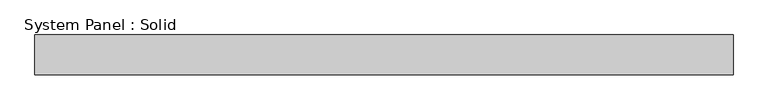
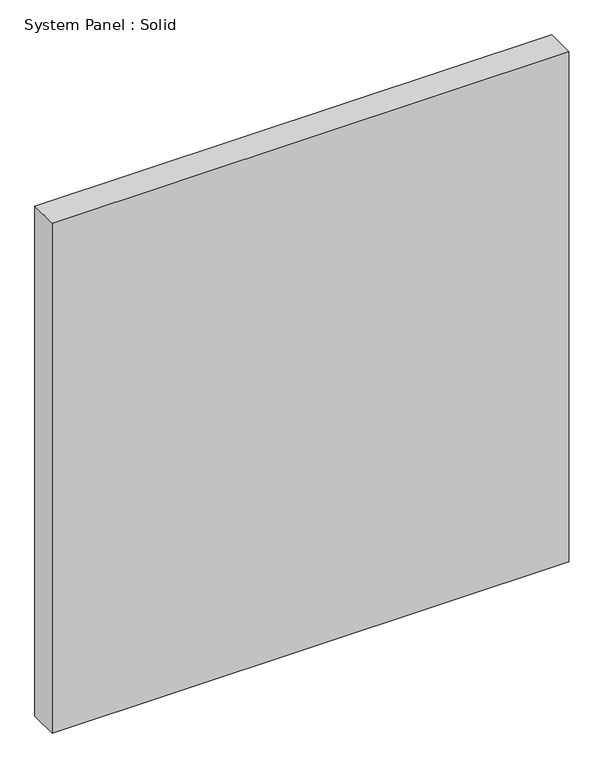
"""IFC4 building model written with IfcOpenShell, lengths in millimetres: plate geometry, System Panel : Solid."""

from ifc_helpers import new_model, si_unit, origin, origin_with_axes, place, context, project, spatial, polyline, outline, extrude, source, transform, mapped, element, save


def system_panel_solid_5afec38a(model_context):
    return source(origin(), model_context, "Body", "SweptSolid", [
        extrude(outline(polyline([(554.0375, -19.05), (-554.0375, -19.05), (-554.0375, 44.45), (554.0375, 44.45), (554.0375, -19.05)])), origin_with_axes(), (0.0, 0.0, 1.0), 1155.7),
    ])


if __name__ == "__main__":
    model = new_model("IFC4")
    model_context = context("Model", 3, world=origin())
    ifc_project = project(units=[si_unit("LENGTHUNIT", "METRE", prefix="MILLI")], contexts=[model_context])
    site = spatial("IfcSite", under=ifc_project)
    building = spatial("IfcBuilding", under=site)
    placement = place(None, origin())
    system_panel_solid_shape = system_panel_solid_5afec38a(model_context)
    element("IfcPlate", 1, ObjectType="System Panel : Solid", at=placement, inside=building, context=model_context, shape_type="MappedRepresentation", body=[
        mapped(system_panel_solid_shape, transform((0.0, 0.0, 0.0), x_axis=(1.0, 0.0, 0.0), y_axis=(0.0, 1.0, 0.0), z_axis=(0.0, 0.0, 1.0))),
    ])
    save(model, "model.ifc")
